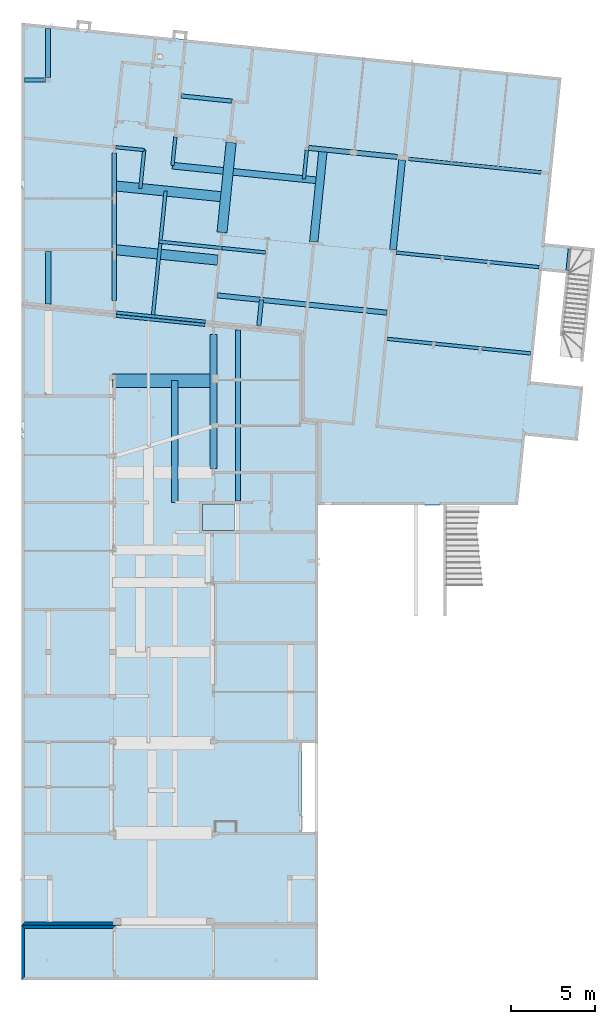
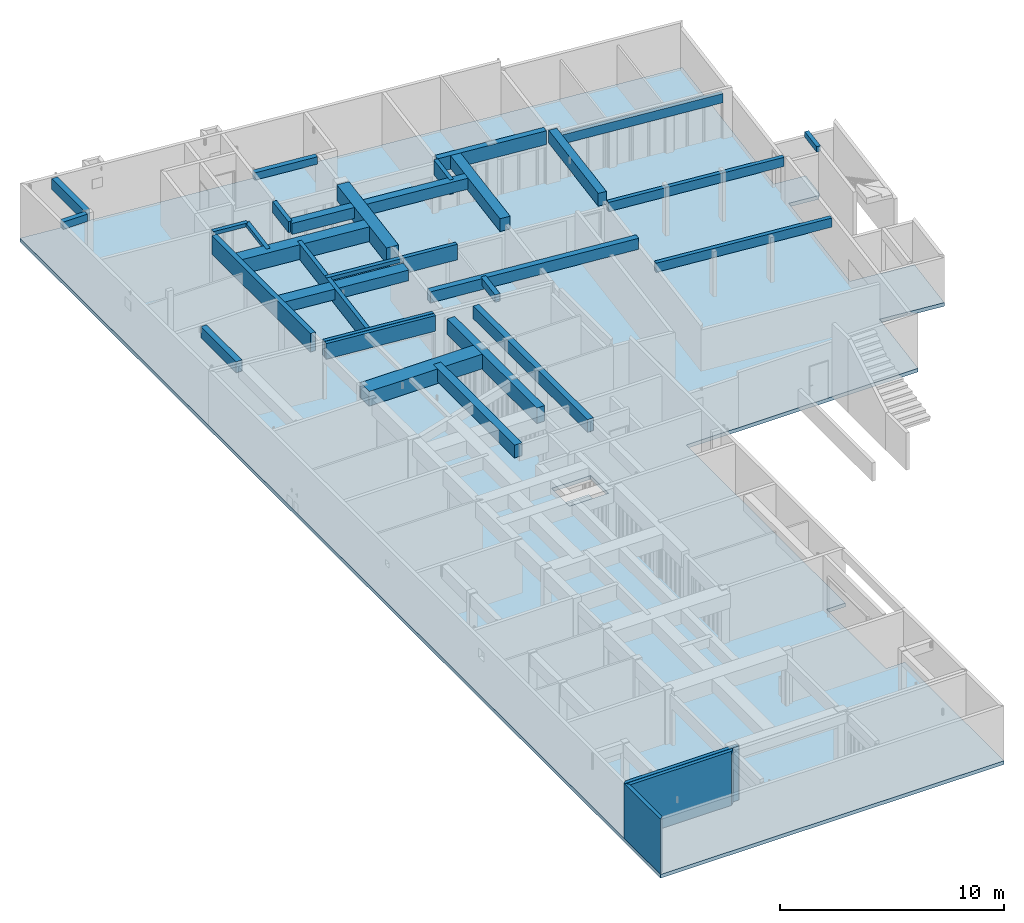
# One storey, part 2 of 41: 31 beams, 3 walls, 2 slabs.
"""IFC2X3 building model written with IfcOpenShell, lengths in millimetres."""

from ifc_helpers import new_model, entity, si_unit, converted_unit, derived_unit, money_unit, direction, frame, frame_2d, origin_with_axes, place, context, subcontext, project, spatial, polyline, rectangle, outline, extrude, material, layer, layer_set, layer_usage, type_object, element, save


model = new_model("IFC2X3")

# Units and contexts
model_context = context("Model", 3, precision=0.01, world=origin_with_axes(), true_north=direction((0.0, 1.0)))
body_context = subcontext(model_context, "Body", "Model", "MODEL_VIEW")
ifc_project = project(units=[si_unit("LENGTHUNIT", "METRE", prefix="MILLI"), si_unit("AREAUNIT", "SQUARE_METRE"), si_unit("VOLUMEUNIT", "CUBIC_METRE"), converted_unit("PLANEANGLEUNIT", "DEGREE", entity("IfcPlaneAngleMeasure", 0.0174532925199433), si_unit("PLANEANGLEUNIT", "RADIAN"), dimensions=[0, 0, 0, 0, 0, 0, 0]), money_unit("USD"), converted_unit("TIMEUNIT", "Year", entity("IfcTimeMeasure", 31557600.0), si_unit("TIMEUNIT", "SECOND"), dimensions=[0, 0, 1, 0, 0, 0, 0]), si_unit("MASSUNIT", "GRAM", prefix="KILO"), si_unit("THERMODYNAMICTEMPERATUREUNIT", "DEGREE_CELSIUS"), si_unit("LUMINOUSINTENSITYUNIT", "LUMEN"), si_unit("ENERGYUNIT", "JOULE", prefix="MEGA"), derived_unit("THERMALCONDUCTANCEUNIT", [(si_unit("POWERUNIT", "WATT"), 1), (si_unit("LENGTHUNIT", "METRE"), -1), (si_unit("THERMODYNAMICTEMPERATUREUNIT", "KELVIN"), -1)]), derived_unit("SPECIFICHEATCAPACITYUNIT", [(si_unit("ENERGYUNIT", "JOULE"), 1), (si_unit("MASSUNIT", "GRAM", prefix="KILO"), -1), (si_unit("THERMODYNAMICTEMPERATUREUNIT", "KELVIN"), -1)]), derived_unit("MASSDENSITYUNIT", [(si_unit("MASSUNIT", "GRAM", prefix="KILO"), 1), (si_unit("VOLUMEUNIT", "CUBIC_METRE"), -1)])], contexts=[model_context])

# Site, building, storey
site_placement = place(None, origin_with_axes())
site = spatial("IfcSite", under=ifc_project, at=site_placement, Name="Site", CompositionType="ELEMENT")
building_placement = place(site_placement, origin_with_axes())
building = spatial("IfcBuilding", under=site, at=building_placement, Name="Bâtiment", CompositionType="ELEMENT")
storey_placement = place(building_placement, origin_with_axes())
storey = spatial("IfcBuildingStorey", under=building, at=storey_placement, Name="sousol", CompositionType="ELEMENT", Elevation=0.0)

# Beams
ifc_material_1 = material(Name="Parpaing 2676271321")
beam_type_1 = type_object("IfcBeamType", Name="Parpaing 2676271321 400 x 700", PredefinedType="NOTDEFINED")
beam_1_placement = place(storey_placement, frame((2239391.506804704, -612045.9040669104, 2950.0), z_axis=(0.0, 0.0, 1.0), x_axis=(-0.9948759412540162, 0.101103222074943, 0.0)))
element("IfcBeam", 1, at=beam_1_placement, inside=storey, type_object=beam_type_1, material=ifc_material_1, Name="Poutre-012", context=body_context, shape_type="SweptSolid", body=[
    extrude(rectangle(XDim=700.0, YDim=400.0, at=frame_2d((-350.0, 0.0), x_axis=(1.0, 0.0))), frame((0.0, 0.0, 0.0), z_axis=(0.0, 1.0, 0.0), x_axis=(0.0, 0.0, 1.0)), (0.0, 0.0, 1.0), 5400.000000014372),
])
beam_2_placement = place(storey_placement, frame((2225792.911452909, -632523.5146792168, 2950.0), z_axis=(0.0, 0.0, 1.0), x_axis=(1.0, 0.0, 0.0)))
element("IfcBeam", 2, at=beam_2_placement, inside=storey, type_object=beam_type_1, material=ifc_material_1, Name="Poutre-012", context=body_context, shape_type="SweptSolid", body=[
    extrude(rectangle(XDim=700.0, YDim=400.0, at=frame_2d((-350.0, 0.0), x_axis=(1.0, 0.0))), frame((0.0, 0.0, 0.0), z_axis=(0.0, 1.0, 0.0), x_axis=(0.0, 0.0, 1.0)), (0.0, 0.0, 1.0), 7274.065963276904),
])
ifc_material_2 = material(Name="Bloc béton 3409626266")
beam_type_2 = type_object("IfcBeamType", Name="Bloc béton 3409626266 200 x 200", PredefinedType="NOTDEFINED")
beam_3_placement = place(storey_placement, frame((2223964.021577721, -611455.3460953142, 2950.0), z_axis=(0.0, 0.0, 1.0), x_axis=(0.1011032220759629, 0.9948759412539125, 0.0)))
element("IfcBeam", 3, at=beam_3_placement, inside=storey, type_object=beam_type_2, material=ifc_material_2, Name="Poutre-012", context=body_context, shape_type="SweptSolid", body=[
    extrude(rectangle(XDim=200.0, YDim=200.0, at=frame_2d((-100.0, 0.0), x_axis=(1.0, 0.0))), frame((0.0, 0.0, 0.0), z_axis=(0.0, 1.0, 0.0), x_axis=(0.0, 0.0, 1.0)), (0.0, 0.0, 1.0), 1708.542907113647),
])
beam_4_placement = place(storey_placement, frame((2223730.486799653, -613753.3750540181, 2950.0), z_axis=(0.0, 0.0, 1.0), x_axis=(0.9948759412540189, -0.1011032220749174, 0.0)))
element("IfcBeam", 4, at=beam_4_placement, inside=storey, type_object=beam_type_2, material=ifc_material_2, Name="Poutre-012", context=body_context, shape_type="SweptSolid", body=[
    extrude(rectangle(XDim=200.0, YDim=200.0, at=frame_2d((-100.0, 0.0), x_axis=(1.0, 0.0))), frame((0.0, 0.0, 0.0), z_axis=(0.0, 1.0, 0.0), x_axis=(0.0, 0.0, 1.0)), (0.0, 0.0, 1.0), 2309.864841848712),
])
beam_type_3 = type_object("IfcBeamType", Name="Parpaing 2676271321 200 x 200", PredefinedType="NOTDEFINED")
beam_5_placement = place(storey_placement, frame((2228610.361320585, -617315.5688775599, 2950.0), z_axis=(0.0, 0.0, 1.0), x_axis=(0.1011032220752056, 0.9948759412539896, 0.0)))
element("IfcBeam", 5, at=beam_5_placement, inside=storey, type_object=beam_type_3, material=ifc_material_1, Name="Poutre-012", context=body_context, shape_type="SweptSolid", body=[
    extrude(rectangle(XDim=200.0, YDim=200.0, at=frame_2d((-100.0, 0.0), x_axis=(1.0, 0.0))), frame((0.0, 0.0, 0.0), z_axis=(0.0, 1.0, 0.0), x_axis=(0.0, 0.0, 1.0)), (0.0, 0.0, 1.0), 3781.181085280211),
])
beam_type_4 = type_object("IfcBeamType", Name="Parpaing 2676271321 600 x 800", PredefinedType="NOTDEFINED")
beam_6_placement = place(storey_placement, frame((2228832.025318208, -614271.813545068, 2950.0), z_axis=(0.0, 0.0, 1.0), x_axis=(0.1011032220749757, 0.994875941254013, 0.0)))
element("IfcBeam", 6, at=beam_6_placement, inside=storey, type_object=beam_type_4, material=ifc_material_1, Name="Poutre-012", context=body_context, shape_type="SweptSolid", body=[
    extrude(rectangle(XDim=800.0, YDim=600.0, at=frame_2d((-400.0, 0.0), x_axis=(1.0, 0.0))), frame((0.0, 0.0, 0.0), z_axis=(0.0, 1.0, 0.0), x_axis=(0.0, 0.0, 1.0)), (0.0, 0.0, 1.0), 6696.50485476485),
])
beam_type_5 = type_object("IfcBeamType", Name="Parpaing 2676271321 300 x 600", PredefinedType="NOTDEFINED")
beam_7_placement = place(storey_placement, frame((2218220.465206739, -604185.1646561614, 2950.0), z_axis=(0.0, 0.0, 1.0), x_axis=(-1.0, 0.0, 0.0)))
element("IfcBeam", 7, at=beam_7_placement, inside=storey, type_object=beam_type_5, material=ifc_material_1, Name="Poutre-012", context=body_context, shape_type="SweptSolid", body=[
    extrude(rectangle(XDim=600.0, YDim=300.0, at=frame_2d((-300.0, 0.0), x_axis=(1.0, 0.0))), frame((0.0, 0.0, 0.0), z_axis=(0.0, 1.0, 0.0), x_axis=(0.0, 0.0, 1.0)), (0.0, 0.0, 1.0), 2919.697810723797),
])
beam_type_6 = type_object("IfcBeamType", Name="Bloc béton 3409626266 400 x 850", PredefinedType="NOTDEFINED")
beam_8_placement = place(storey_placement, frame((2228108.143851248, -630510.3515785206, 2950.0), z_axis=(0.0, 0.0, 1.0), x_axis=(1.0, 0.0, 0.0)))
element("IfcBeam", 8, at=beam_8_placement, inside=storey, type_object=beam_type_6, material=ifc_material_2, Name="Poutre-012", context=body_context, shape_type="SweptSolid", body=[
    extrude(rectangle(XDim=850.0, YDim=400.0, at=frame_2d((-425.0, 0.0), x_axis=(1.0, 0.0))), frame((0.0, 0.0, 0.0), z_axis=(0.0, 1.0, 0.0), x_axis=(0.0, 0.0, 1.0)), (0.0, 0.0, 1.0), 8025.090329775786),
])
beam_type_7 = type_object("IfcBeamType", Name="Parpaing 2676271321 800 x 800", PredefinedType="NOTDEFINED")
beam_9_placement = place(storey_placement, frame((2222064.233344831, -625249.4487159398, 2950.0), z_axis=(0.0, 0.0, 1.0), x_axis=(0.0, -1.0, 0.0)))
element("IfcBeam", 9, at=beam_9_placement, inside=storey, type_object=beam_type_7, material=ifc_material_1, Name="Poutre-012", context=body_context, shape_type="SweptSolid", body=[
    extrude(rectangle(XDim=800.0, YDim=800.0, at=frame_2d((-400.0, 0.0), x_axis=(1.0, 0.0))), frame((0.0, 0.0, 0.0), z_axis=(0.0, 1.0, 0.0), x_axis=(0.0, 0.0, 1.0)), (0.0, 0.0, 1.0), 6043.910506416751),
])
beam_type_8 = type_object("IfcBeamType", Name="Parpaing 2676271321 200 x 500", PredefinedType="NOTDEFINED")
for number, where, z_axis, x_axis, name in (
    (10, (2247061.301545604, -623617.8976143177, 2500.0), (0.0, 0.0, 1.0), (0.1011032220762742, 0.994875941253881, 0.0), "Poutre-012"),
    (11, (2247585.314702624, -618456.9515540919, 2500.0), (0.0, 0.0, 1.0), (0.1011032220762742, 0.994875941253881, 0.0), "Poutre-012"),
):
    element("IfcBeam", number, at=place(storey_placement, frame(where, z_axis=z_axis, x_axis=x_axis)), inside=storey, type_object=beam_type_8, material=ifc_material_1, Name=name, context=body_context, shape_type="SweptSolid", body=[
        extrude(rectangle(XDim=500.0, YDim=200.0, at=frame_2d((-250.0, 0.0), x_axis=(1.0, 0.0))), frame((0.0, 0.0, 0.0), z_axis=(0.0, 1.0, 0.0), x_axis=(0.0, 0.0, 1.0)), (0.0, 0.0, 1.0), 8600.46009555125),
    ])
beam_10_placement = place(storey_placement, frame((2247708.049832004, -612790.548967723, 2500.0), z_axis=(0.0, 0.0, 1.0), x_axis=(0.1011032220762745, 0.994875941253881, 0.0)))
element("IfcBeam", 12, at=beam_10_placement, inside=storey, type_object=beam_type_8, material=ifc_material_1, Name="Poutre-012", context=body_context, shape_type="SweptSolid", body=[
    extrude(rectangle(XDim=500.0, YDim=200.0, at=frame_2d((-250.0, 0.0), x_axis=(1.0, 0.0))), frame((0.0, 0.0, 0.0), z_axis=(0.0, 1.0, 0.0), x_axis=(0.0, 0.0, 1.0)), (0.0, 0.0, 1.0), 7980.040000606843),
])
beam_type_9 = type_object("IfcBeamType", Name="Parpaing 2676271321 300 x 690", PredefinedType="NOTDEFINED")
beam_11_placement = place(storey_placement, frame((2229570.307562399, -632433.5146792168, 2950.0), z_axis=(0.0, 0.0, 1.0), x_axis=(1.0, 0.0, 0.0)))
element("IfcBeam", 13, at=beam_11_placement, inside=storey, type_object=beam_type_9, material=ifc_material_1, Name="Poutre-012", context=body_context, shape_type="SweptSolid", body=[
    extrude(rectangle(XDim=690.0000000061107, YDim=300.0, at=frame_2d((-345.0000000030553, 0.0), x_axis=(1.0, 0.0))), frame((0.0, 0.0, 0.0), z_axis=(0.0, 1.0, 0.0), x_axis=(0.0, 0.0, 1.0)), (0.0, 0.0, 1.0), 10228.50967029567),
])
beam_type_10 = type_object("IfcBeamType", Name="Parpaing 2676271321 180 x 850", PredefinedType="NOTDEFINED")
for number, where, z_axis, x_axis, name in (
    (14, (2227602.863854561, -621914.6020690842, 2950.0), (0.0, 0.0, 1.0), (0.1011032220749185, 0.9948759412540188, 0.0), "Poutre-012"),
    (15, (2227624.10286283, -621715.730370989, 2950.0), (0.0, 0.0, 1.0), (0.1011032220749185, 0.9948759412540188, 0.0), "Poutre-012"),
):
    element("IfcBeam", number, at=place(storey_placement, frame(where, z_axis=z_axis, x_axis=x_axis)), inside=storey, type_object=beam_type_10, material=ifc_material_1, Name=name, context=body_context, shape_type="SweptSolid", body=[
        extrude(rectangle(XDim=850.0, YDim=180.0, at=frame_2d((-425.0, 0.0), x_axis=(1.0, 0.0))), frame((0.0, 0.0, 0.0), z_axis=(0.0, 1.0, 0.0), x_axis=(0.0, 0.0, 1.0)), (0.0, 0.0, 1.0), 5358.004312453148),
    ])
beam_type_11 = type_object("IfcBeamType", Name="Bloc béton 3409626266 300 x 600", PredefinedType="NOTDEFINED")
beam_12_placement = place(storey_placement, frame((2218224.233344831, -617507.5058083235, 2950.0), z_axis=(0.0, 0.0, 1.0), x_axis=(-1.0, 0.0, 0.0)))
element("IfcBeam", 16, at=beam_12_placement, inside=storey, type_object=beam_type_11, material=ifc_material_2, Name="Poutre-012", context=body_context, shape_type="SweptSolid", body=[
    extrude(rectangle(XDim=600.0, YDim=300.0, at=frame_2d((-300.0, 0.0), x_axis=(1.0, 0.0))), frame((0.0, 0.0, 0.0), z_axis=(0.0, 1.0, 0.0), x_axis=(0.0, 0.0, 1.0)), (0.0, 0.0, 1.0), 3162.509160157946),
])
beam_13_placement = place(storey_placement, frame((2238483.355274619, -621180.114523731, 2950.0), z_axis=(0.0, 0.0, 1.0), x_axis=(0.1011032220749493, 0.9948759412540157, 0.0)))
element("IfcBeam", 17, at=beam_13_placement, inside=storey, type_object=beam_type_11, material=ifc_material_2, Name="Poutre-012", context=body_context, shape_type="SweptSolid", body=[
    extrude(rectangle(XDim=600.0, YDim=300.0, at=frame_2d((-300.0, 0.0), x_axis=(1.0, 0.0))), frame((0.0, 0.0, 0.0), z_axis=(0.0, 1.0, 0.0), x_axis=(0.0, 0.0, 1.0)), (0.0, 0.0, 1.0), 10213.12216969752),
])
beam_type_12 = type_object("IfcBeamType", Name="Bloc béton 3409626266 200 x 850", PredefinedType="NOTDEFINED")
beam_14_placement = place(storey_placement, frame((2224482.767534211, -621396.4954692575, 2950.0), z_axis=(0.0, 0.0, 1.0), x_axis=(0.9948759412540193, -0.1011032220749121, 0.0)))
element("IfcBeam", 18, at=beam_14_placement, inside=storey, type_object=beam_type_12, material=ifc_material_2, Name="Poutre-012", context=body_context, shape_type="SweptSolid", body=[
    extrude(rectangle(XDim=850.0, YDim=200.0, at=frame_2d((-425.0, 0.0), x_axis=(1.0, 0.0))), frame((0.0, 0.0, 0.0), z_axis=(0.0, 1.0, 0.0), x_axis=(0.0, 0.0, 1.0)), (0.0, 0.0, 1.0), 7527.898611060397),
])
beam_15_placement = place(storey_placement, frame((2231222.689120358, -617581.043945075, 2950.0), z_axis=(0.0, 0.0, 1.0), x_axis=(0.1011032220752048, 0.9948759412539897, 0.0)))
element("IfcBeam", 19, at=beam_15_placement, inside=storey, type_object=beam_type_12, material=ifc_material_2, Name="Poutre-012", context=body_context, shape_type="SweptSolid", body=[
    extrude(rectangle(XDim=850.0, YDim=200.0, at=frame_2d((-425.0, 0.0), x_axis=(1.0, 0.0))), frame((0.0, 0.0, 0.0), z_axis=(0.0, 1.0, 0.0), x_axis=(0.0, 0.0, 1.0)), (0.0, 0.0, 1.0), 2625.782463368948),
])
beam_type_13 = type_object("IfcBeamType", Name="Parpaing 2676271321 600 x 580", PredefinedType="NOTDEFINED")
beam_16_placement = place(storey_placement, frame((2228356.214395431, -618036.0667992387, 2950.0), z_axis=(0.0, 0.0, 1.0), x_axis=(0.1011032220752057, 0.9948759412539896, 0.0)))
element("IfcBeam", 20, at=beam_16_placement, inside=storey, type_object=beam_type_13, material=ifc_material_1, Name="Poutre-012", context=body_context, shape_type="SweptSolid", body=[
    extrude(rectangle(XDim=580.0, YDim=600.0, at=frame_2d((-290.0, 0.0), x_axis=(1.0, 0.0))), frame((0.0, 0.0, 0.0), z_axis=(0.0, 1.0, 0.0), x_axis=(0.0, 0.0, 1.0)), (0.0, 0.0, 1.0), 6123.357494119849),
])
beam_type_14 = type_object("IfcBeamType", Name="Parpaing 2676271321 250 x 1000", PredefinedType="NOTDEFINED")
beam_17_placement = place(storey_placement, frame((2222169.833747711, -620439.0131484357, 2950.0), z_axis=(0.0, 0.0, 1.0), x_axis=(1.0, 0.0, 0.0)))
element("IfcBeam", 21, at=beam_17_placement, inside=storey, type_object=beam_type_14, material=ifc_material_1, Name="Poutre-012", context=body_context, shape_type="SweptSolid", body=[
    extrude(rectangle(XDim=1000.0, YDim=250.0, at=frame_2d((-500.0, 0.0), x_axis=(1.0, 0.0))), frame((0.0, 0.0, 0.0), z_axis=(0.0, 1.0, 0.0), x_axis=(0.0, 0.0, 1.0)), (0.0, 0.0, 1.0), 8813.508884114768),
])
beam_type_15 = type_object("IfcBeamType", Name="Bloc béton 3409626266 250 x 400", PredefinedType="NOTDEFINED")
beam_18_placement = place(storey_placement, frame((2216814.23334483, -607254.8624668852, 2950.0), z_axis=(0.0, 0.0, 1.0), x_axis=(0.0, -1.0, 0.0)))
element("IfcBeam", 22, at=beam_18_placement, inside=storey, type_object=beam_type_15, material=ifc_material_2, Name="Poutre-012", context=body_context, shape_type="SweptSolid", body=[
    extrude(rectangle(XDim=400.0, YDim=250.0, at=frame_2d((-200.0, 0.0), x_axis=(1.0, 0.0))), frame((0.0, 0.0, 0.0), z_axis=(0.0, 1.0, 0.0), x_axis=(0.0, 0.0, 1.0)), (0.0, 0.0, 1.0), 1256.231861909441),
])
beam_19_placement = place(storey_placement, frame((2230977.431508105, -620417.3329084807, 2950.0), z_axis=(0.0, 0.0, 1.0), x_axis=(-0.9948759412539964, 0.1011032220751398, 0.0)))
element("IfcBeam", 23, at=beam_19_placement, inside=storey, type_object=beam_type_15, material=ifc_material_2, Name="Poutre-012", context=body_context, shape_type="SweptSolid", body=[
    extrude(rectangle(XDim=400.0, YDim=250.0, at=frame_2d((-200.0, 0.0), x_axis=(1.0, 0.0))), frame((0.0, 0.0, 0.0), z_axis=(0.0, 1.0, 0.0), x_axis=(0.0, 0.0, 1.0)), (0.0, 0.0, 1.0), 1540.776728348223),
])
beam_type_16 = type_object("IfcBeamType", Name="Parpaing 2676271321 200 x 600", PredefinedType="NOTDEFINED")
beam_20_placement = place(storey_placement, frame((2225827.288410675, -610667.4546264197, 2950.0), z_axis=(0.0, 0.0, 1.0), x_axis=(-0.9948759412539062, 0.101103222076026, 0.0)))
element("IfcBeam", 24, at=beam_20_placement, inside=storey, type_object=beam_type_16, material=ifc_material_1, Name="Poutre-012", context=body_context, shape_type="SweptSolid", body=[
    extrude(rectangle(XDim=600.0, YDim=200.0, at=frame_2d((-300.0, 0.0), x_axis=(1.0, 0.0))), frame((0.0, 0.0, 0.0), z_axis=(0.0, 1.0, 0.0), x_axis=(0.0, 0.0, 1.0)), (0.0, 0.0, 1.0), 1729.946884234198),
])
beam_type_17 = type_object("IfcBeamType", Name="Parpaing 2676271321 400 x 600", PredefinedType="NOTDEFINED")
beam_21_placement = place(storey_placement, frame((2234476.982864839, -613285.3276249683, 2950.0), z_axis=(0.0, 0.0, 1.0), x_axis=(0.1011032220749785, 0.9948759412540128, 0.0)))
element("IfcBeam", 25, at=beam_21_placement, inside=storey, type_object=beam_type_17, material=ifc_material_1, Name="Poutre-012", context=body_context, shape_type="SweptSolid", body=[
    extrude(rectangle(XDim=600.0, YDim=400.0, at=frame_2d((-300.0, 0.0), x_axis=(1.0, 0.0))), frame((0.0, 0.0, 0.0), z_axis=(0.0, 1.0, 0.0), x_axis=(0.0, 0.0, 1.0)), (0.0, 0.0, 1.0), 8870.048306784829),
])
beam_type_18 = type_object("IfcBeamType", Name="Parpaing 2676271321 600 x 850", PredefinedType="NOTDEFINED")
beam_22_placement = place(storey_placement, frame((2229163.856343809, -611006.5298364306, 2950.0), z_axis=(0.0, 0.0, 1.0), x_axis=(-0.9948759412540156, 0.1011032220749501, 0.0)))
element("IfcBeam", 26, at=beam_22_placement, inside=storey, type_object=beam_type_18, material=ifc_material_1, Name="Poutre-012", context=body_context, shape_type="SweptSolid", body=[
    extrude(rectangle(XDim=850.0, YDim=600.0, at=frame_2d((-425.0, 0.0), x_axis=(1.0, 0.0))), frame((0.0, 0.0, 0.0), z_axis=(0.0, 1.0, 0.0), x_axis=(0.0, 0.0, 1.0)), (0.0, 0.0, 1.0), 5400.000000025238),
])
beam_type_19 = type_object("IfcBeamType", Name="Parpaing 2676271321 250 x 400", PredefinedType="NOTDEFINED")
beam_23_placement = place(storey_placement, frame((2229224.499261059, -608527.998456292, 2950.0), z_axis=(0.0, 0.0, 1.0), x_axis=(0.1011032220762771, 0.9948759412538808, 0.0)))
element("IfcBeam", 27, at=beam_23_placement, inside=storey, type_object=beam_type_19, material=ifc_material_1, Name="Poutre-012", context=body_context, shape_type="SweptSolid", body=[
    extrude(rectangle(XDim=400.0, YDim=250.0, at=frame_2d((-200.0, 0.0), x_axis=(1.0, 0.0))), frame((0.0, 0.0, 0.0), z_axis=(0.0, 1.0, 0.0), x_axis=(0.0, 0.0, 1.0)), (0.0, 0.0, 1.0), 3069.975049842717),
])
beam_type_20 = type_object("IfcBeamType", Name="Bloc béton 3409626266 300 x 750", PredefinedType="NOTDEFINED")
beam_24_placement = place(storey_placement, frame((2239097.000781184, -611865.2026342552, 2950.0), z_axis=(0.0, 0.0, 1.0), x_axis=(0.1011032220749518, 0.9948759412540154, 0.0)))
element("IfcBeam", 28, at=beam_24_placement, inside=storey, type_object=beam_type_20, material=ifc_material_2, Name="Poutre-012", context=body_context, shape_type="SweptSolid", body=[
    extrude(rectangle(XDim=750.0, YDim=300.0, at=frame_2d((-375.0, 0.0), x_axis=(1.0, 0.0))), frame((0.0, 0.0, 0.0), z_axis=(0.0, 1.0, 0.0), x_axis=(0.0, 0.0, 1.0)), (0.0, 0.0, 1.0), 5329.09584759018),
])
beam_type_21 = type_object("IfcBeamType", Name="Parpaing 2676271321 500 x 700", PredefinedType="NOTDEFINED")
beam_25_placement = place(storey_placement, frame((2234667.051552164, -611415.0136990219, 2950.0), z_axis=(0.0, 0.0, 1.0), x_axis=(-0.9948759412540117, 0.101103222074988, 0.0)))
element("IfcBeam", 29, at=beam_25_placement, inside=storey, type_object=beam_type_21, material=ifc_material_1, Name="Poutre-012", context=body_context, shape_type="SweptSolid", body=[
    extrude(rectangle(XDim=700.0, YDim=500.0, at=frame_2d((-350.0, 0.0), x_axis=(1.0, 0.0))), frame((0.0, 0.0, 0.0), z_axis=(0.0, 1.0, 0.0), x_axis=(0.0, 0.0, 1.0)), (0.0, 0.0, 1.0), 5550.000000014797),
])
beam_type_22 = type_object("IfcBeamType", Name="Bloc béton 3409626266 200 x 300", PredefinedType="NOTDEFINED")
beam_26_placement = place(storey_placement, frame((2249294.101497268, -618650.1175134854, 2560.000000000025), z_axis=(0.0, 0.0, 1.0), x_axis=(0.9948759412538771, -0.1011032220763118, 0.0)))
element("IfcBeam", 30, at=beam_26_placement, inside=storey, type_object=beam_type_22, material=ifc_material_2, Name="Poutre-012", context=body_context, shape_type="SweptSolid", body=[
    extrude(rectangle(XDim=300.0, YDim=200.0, at=frame_2d((-150.0, 0.0), x_axis=(1.0, 0.0))), frame((0.0, 0.0, 0.0), z_axis=(0.0, 1.0, 0.0), x_axis=(0.0, 0.0, 1.0)), (0.0, 0.0, 1.0), 1291.477641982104),
])
beam_type_23 = type_object("IfcBeamType", Name="Bloc béton 3409626266 200 x 800", PredefinedType="NOTDEFINED")
beam_27_placement = place(storey_placement, frame((2233689.718798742, -611466.4658524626, 2950.0), z_axis=(0.0, 0.0, 1.0), x_axis=(-0.9948759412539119, 0.10110322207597, 0.0)))
element("IfcBeam", 31, at=beam_27_placement, inside=storey, type_object=beam_type_23, material=ifc_material_2, Name="Poutre-012", context=body_context, shape_type="SweptSolid", body=[
    extrude(rectangle(XDim=800.0, YDim=200.0, at=frame_2d((-400.0, 0.0), x_axis=(1.0, 0.0))), frame((0.0, 0.0, 0.0), z_axis=(0.0, 1.0, 0.0), x_axis=(0.0, 0.0, 1.0)), (0.0, 0.0, 1.0), 1729.946883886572),
])

# Slabs
ifc_layer_1 = layer(ifc_material_1, 200.0, ventilated="UNKNOWN")
ifc_layer_set_1 = layer_set([ifc_layer_1], Name="Parpaing 2676271321 200")
ifc_layer_usage_1 = layer_usage(ifc_layer_set_1, "AXIS3", "NEGATIVE", 200.0)
slab_type = type_object("IfcSlabType", Name="Parpaing 2676271321 200", PredefinedType="FLOOR")
slab_1_placement = place(storey_placement, frame((2216634.23334483, -603843.0384290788, 0.0), z_axis=(0.0, 0.0, 1.0), x_axis=(1.0, 0.0, 0.0)))
element("IfcSlab", 32, at=slab_1_placement, inside=storey, type_object=slab_type, material=ifc_layer_usage_1, Name="Dalle-051", PredefinedType="FLOOR", context=body_context, shape_type="SweptSolid", body=[
    extrude(outline(polyline([(0.0, 0.0), (7.958078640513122e-10, -57255.28464788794), (17722.40799843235, -57254.83985656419), (17722.40799843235, -48389.64363297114), (16759.99999999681, -48389.64363297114), (16759.99999999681, -43075.72328280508), (17722.40800006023, -43075.72328277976), (17722.43086527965, -28846.62627966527), (29688.52381849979, -28846.62632324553), (30111.65713544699, -24682.9097934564), (33260.7547640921, -25002.93353077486), (33589.30067450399, -21769.97601316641), (30440.20304585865, -21449.95227584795), (31112.83178236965, -14831.15088051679), (32562.12268930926, -14978.1214454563), (32697.39378508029, -14810.89258739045), (32827.6555574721, -13526.00097018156), (32845.81082262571, -13346.91889893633), (31276.96751045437, -13187.48684593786), (32283.72419693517, -3280.799546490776), (0.0, 0.0)]), holes=[polyline([(10829.51986168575, -30370.47625014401), (10829.51986168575, -28770.47625013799), (12729.51992498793, -28770.4762501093), (12839.24269150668, -28770.47625013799), (12839.24269150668, -30370.47625014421), (11193.58498388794, -30370.4762501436), (10829.51986168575, -30370.47625014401)])]), frame((0.0, 0.0, -200.0), z_axis=(0.0, 0.0, 1.0), x_axis=(1.0, 0.0, 0.0)), (0.0, 0.0, 1.0), 200.0),
])
ifc_layer_usage_2 = layer_usage(ifc_layer_set_1, "AXIS3", "NEGATIVE", 200.0)
slab_2_placement = place(storey_placement, frame((2229363.753269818, -632613.514679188, -1000.0), z_axis=(0.0, 0.0, 1.0), x_axis=(1.0, 0.0, 0.0)))
element("IfcSlab", 33, at=slab_2_placement, inside=storey, type_object=slab_type, material=ifc_layer_usage_2, Name="Dalle-051", PredefinedType="FLOOR", context=body_context, shape_type="SweptSolid", body=[
    extrude(outline(polyline([(0.0, 0.0), (-1900.000063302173, 3.708962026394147e-06), (-1900.000063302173, -1600.000000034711), (-4.547473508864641e-10, -1600.000000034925), (0.0, 0.0)])), frame((0.0, 0.0, -200.0), z_axis=(0.0, 0.0, 1.0), x_axis=(1.0, 0.0, 0.0)), (0.0, 0.0, 1.0), 200.0),
])

# Walls
ifc_material_3 = material(Name="Parpaing 314940890")
ifc_layer_2 = layer(ifc_material_3, 180.0, ventilated="UNKNOWN")
ifc_layer_set_2 = layer_set([ifc_layer_2], Name="Beton  18 0170347028")
ifc_layer_usage_3 = layer_usage(ifc_layer_set_2, "AXIS2", "POSITIVE", 0.0)
wall_type = type_object("IfcWallType", Name="Beton  18 0170347028 180", PredefinedType="NOTDEFINED")
wall_1_placement = place(storey_placement, frame((2216634.23334483, -657818.3230769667, 0.0), z_axis=(0.0, 0.0, 1.0), x_axis=(1.0, 0.0, 0.0)))
element("IfcWallStandardCase", 34, at=wall_1_placement, inside=storey, type_object=wall_type, material=ifc_layer_usage_3, Name="Mur-133", context=body_context, shape_type="SweptSolid", body=[
    extrude(outline(polyline([(1.13686837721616e-10, 0.0), (5950.072305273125, 0.0), (5950.072305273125, 180.0000000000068), (180.0000000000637, 180.0000000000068), (1.13686837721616e-10, 0.0)])), origin_with_axes(), (0.0, 0.0, 1.0), 2950.0),
])
ifc_layer_usage_4 = layer_usage(ifc_layer_set_2, "AXIS2", "POSITIVE", 0.0)
wall_2_placement = place(storey_placement, frame((2216634.233344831, -657838.3230769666, 0.0), z_axis=(0.0, 0.0, 1.0), x_axis=(0.0, -1.0, 0.0)))
element("IfcWallStandardCase", 35, at=wall_2_placement, inside=storey, type_object=wall_type, material=ifc_layer_usage_4, Name="Mur-132", context=body_context, shape_type="SweptSolid", body=[
    extrude(outline(polyline([(0.0, 0.0), (3260.000000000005, 0.0), (3079.995482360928, 179.99999999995), (180.0000000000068, 179.99999999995), (0.0, 0.0)])), origin_with_axes(), (0.0, 0.0, 1.0), 3000.0),
])
ifc_layer_usage_5 = layer_usage(ifc_layer_set_2, "AXIS2", "NEGATIVE", 0.0)
wall_3_placement = place(storey_placement, frame((2216634.23334483, -657838.3230769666, 0.0), z_axis=(0.0, 0.0, 1.0), x_axis=(1.0, 0.0, 0.0)))
element("IfcWallStandardCase", 36, at=wall_3_placement, inside=storey, type_object=wall_type, material=ifc_layer_usage_5, Name="Mur-133", context=body_context, shape_type="SweptSolid", body=[
    extrude(outline(polyline([(180.0000000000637, -180.0000000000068), (5449.99999999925, -180.0000000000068), (5629.9999999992, 0.0), (1.13686837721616e-10, 0.0), (180.0000000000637, -180.0000000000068)])), origin_with_axes(), (0.0, 0.0, 1.0), 2950.0),
])

save(model, "model.ifc")
